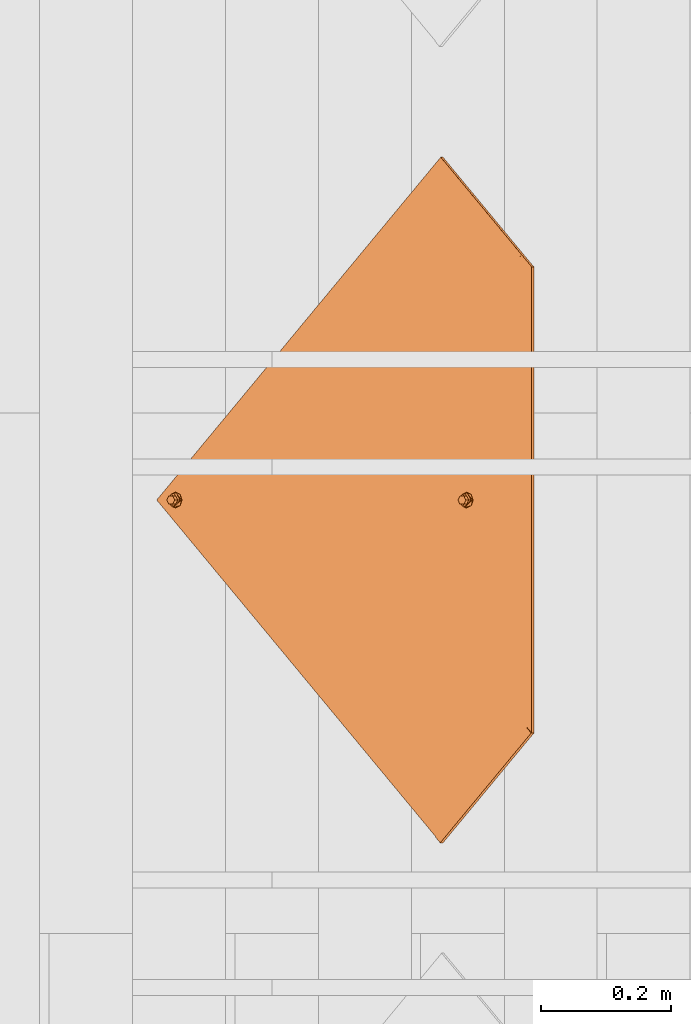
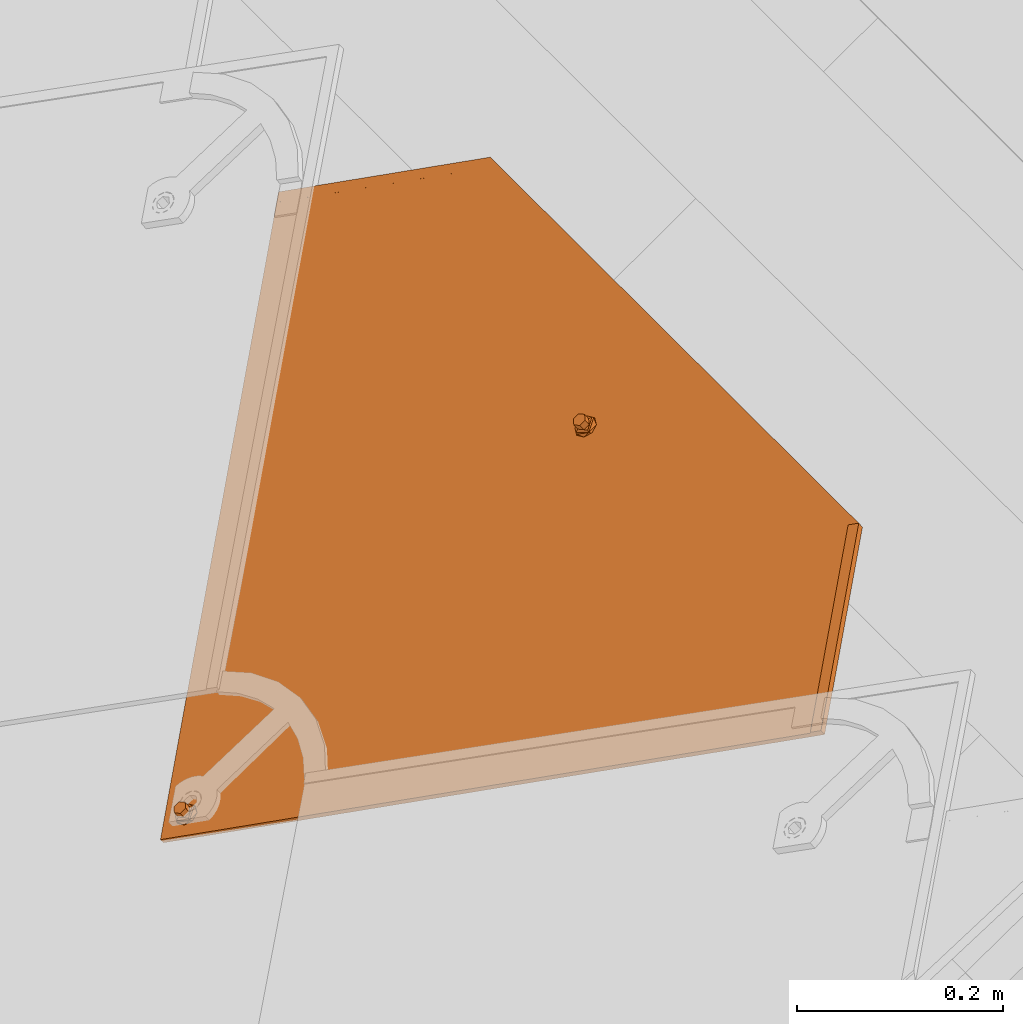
# One storey, part 33 of 151: 1 proxy.
"""IFC2X3 building model written with IfcOpenShell, lengths in millimetres."""

from ifc_helpers import new_model, entity, si_unit, converted_unit, derived_unit, direction, frame, origin, place, context, subcontext, project, spatial, faceted_brep, source, transform, mapped, material, material_list, type_object, type_shapes, element, save


model = new_model("IFC2X3")

# Units and contexts
model_context = context("Model", 3, precision=0.01, world=origin(), true_north=direction((6.12303176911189e-17, 1.0)))
body_context = subcontext(model_context, "Body", "Model", "MODEL_VIEW")
ifc_project = project(units=[si_unit("LENGTHUNIT", "METRE", prefix="MILLI"), si_unit("AREAUNIT", "SQUARE_METRE"), si_unit("VOLUMEUNIT", "CUBIC_METRE"), converted_unit("PLANEANGLEUNIT", "DEGREE", entity("IfcRatioMeasure", 0.0174532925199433), si_unit("PLANEANGLEUNIT", "RADIAN"), dimensions=[0, 0, 0, 0, 0, 0, 0]), si_unit("MASSUNIT", "GRAM", prefix="KILO"), derived_unit("MASSDENSITYUNIT", [(si_unit("MASSUNIT", "GRAM", prefix="KILO"), 1), (si_unit("LENGTHUNIT", "METRE"), -3)]), si_unit("TIMEUNIT", "SECOND"), si_unit("FREQUENCYUNIT", "HERTZ"), si_unit("THERMODYNAMICTEMPERATUREUNIT", "DEGREE_CELSIUS"), derived_unit("THERMALTRANSMITTANCEUNIT", [(si_unit("MASSUNIT", "GRAM", prefix="KILO"), 1), (si_unit("THERMODYNAMICTEMPERATUREUNIT", "KELVIN"), -1), (si_unit("TIMEUNIT", "SECOND"), -3)]), derived_unit("VOLUMETRICFLOWRATEUNIT", [(si_unit("LENGTHUNIT", "METRE"), 3), (si_unit("TIMEUNIT", "SECOND"), -1)]), si_unit("ELECTRICCURRENTUNIT", "AMPERE"), si_unit("ELECTRICVOLTAGEUNIT", "VOLT"), si_unit("POWERUNIT", "WATT"), si_unit("FORCEUNIT", "NEWTON", prefix="KILO"), si_unit("ILLUMINANCEUNIT", "LUX"), si_unit("LUMINOUSFLUXUNIT", "LUMEN"), si_unit("LUMINOUSINTENSITYUNIT", "CANDELA"), derived_unit("USERDEFINED", [(si_unit("MASSUNIT", "GRAM", prefix="KILO"), -1), (si_unit("LENGTHUNIT", "METRE"), -2), (si_unit("TIMEUNIT", "SECOND"), 3), (si_unit("LUMINOUSFLUXUNIT", "LUMEN"), 1)]), derived_unit("LINEARVELOCITYUNIT", [(si_unit("LENGTHUNIT", "METRE"), 1), (si_unit("TIMEUNIT", "SECOND"), -1)]), si_unit("PRESSUREUNIT", "PASCAL"), derived_unit("USERDEFINED", [(si_unit("LENGTHUNIT", "METRE"), -2), (si_unit("MASSUNIT", "GRAM", prefix="KILO"), 1), (si_unit("TIMEUNIT", "SECOND"), -2)])], contexts=[model_context])

# Site, building, storey
site_placement = place(None, origin())
site = spatial("IfcSite", under=ifc_project, at=site_placement, Name="Default", CompositionType="ELEMENT")
building_placement = place(site_placement, origin())
building = spatial("IfcBuilding", under=site, at=building_placement, CompositionType="ELEMENT")
storey_placement = place(building_placement, origin())
storey = spatial("IfcBuildingStorey", under=building, at=storey_placement, Name="Level 1", CompositionType="ELEMENT", Elevation=0.0)

# Proxy
ifc_material_1 = material(Name="Rubber - Sunstyle - Black")
ifc_material_2 = material(Name="Glass - Sunstyle - Tainted Black")
ifc_material_list_1 = material_list([ifc_material_1, ifc_material_2])
ifc_material_list_2 = material_list([ifc_material_1, ifc_material_2])
building_element_proxy_type = type_object("IfcBuildingElementProxyType", Name="Shingle Top - Black", PredefinedType="NOTDEFINED", material=ifc_material_list_2)
shared_shape = source(origin(), body_context, "Body", "Brep", [
    faceted_brep([(-518.396436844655, -96.9865733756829, 16.4476231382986), (-518.396436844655, -96.9614556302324, 17.9474128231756), (-526.881123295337, -88.4767691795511, 17.8053154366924), (-526.881123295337, -88.5018869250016, 16.3055257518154), (-376.996804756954, 61.3404039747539, 13.7960402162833), (-368.512118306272, 52.8557175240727, 13.9381376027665), (-376.996804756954, 61.3655217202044, 15.2958299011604), (-368.512118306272, 52.8808352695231, 15.4379272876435)], [[[0, 1, 2, 3]], [[0, 3, 4, 5]], [[3, 2, 6, 4]], [[2, 1, 7, 6]], [[1, 0, 5, 7]], [[5, 4, 6, 7]]]),
    faceted_brep([(0.166366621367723, -33.6374645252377, -4.47296585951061), (-5.6078362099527, -36.9707346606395, -4.4171418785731), (-5.60783620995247, -36.6024255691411, 17.5747274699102), (0.166366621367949, -33.2691554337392, 17.5189034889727), (-5.60783620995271, -43.6372749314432, -4.30549391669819), (-5.60783620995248, -43.2689658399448, 17.6863754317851), (0.166366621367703, -46.9705450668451, -4.24966993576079), (0.166366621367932, -46.6022359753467, 17.7421994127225), (5.94056945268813, -43.6372749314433, -4.30549391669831), (5.94056945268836, -43.2689658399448, 17.686375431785), (5.94056945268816, -36.9707346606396, -4.41714187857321), (5.94056945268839, -36.6024255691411, 17.5747274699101), (-8.43733754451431, -48.5381935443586, 17.774621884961), (0.16636662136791, -52.1014648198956, 17.8342978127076), (-12.0011084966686, -39.9356957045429, 17.6305514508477), (-8.43733754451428, -31.3331978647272, 17.4864810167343), (0.166366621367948, -27.7699265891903, 17.4268050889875), (8.77007078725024, -31.3331978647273, 17.4864810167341), (12.3338417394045, -39.935695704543, 17.6305514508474), (8.77007078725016, -48.5381935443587, 17.7746218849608), (-11.1578780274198, -37.6406185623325, 19.9433933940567), (-9.59010793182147, -39.8646808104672, 21.8708760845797), (0.166366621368, -32.5516055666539, 22.5035764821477), (0.166366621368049, -31.3111079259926, 21.9232298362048), (0.166366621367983, -29.1535570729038, 20.9138547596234), (0.166366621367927, -51.5454208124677, 19.1093557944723), (0.166366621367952, -50.6018442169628, 21.273060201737), (0.166366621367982, -47.1524685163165, 22.7481046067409), (0.166366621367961, -28.2829626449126, 18.7197675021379), (-6.15687907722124, -43.5022527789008, 22.6869725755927), (-6.15687907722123, -36.2018213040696, 22.5647085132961), (11.4906112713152, -42.1520387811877, 20.0189484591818), (10.0152467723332, -40.9390872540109, 21.7920079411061), (6.48961231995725, -36.2018213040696, 22.564708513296), (6.48961231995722, -43.5022527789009, 22.6869725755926), (-6.15687907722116, -43.3682243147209, 30.68986075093), (0.166366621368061, -47.0184400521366, 30.7509927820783), (0.166366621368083, -39.7180085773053, 30.6287287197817), (-6.15687907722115, -36.0677928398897, 30.5675966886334), (6.48961231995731, -43.368224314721, 30.6898607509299), (6.48961231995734, -36.0677928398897, 30.5675966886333), (0.166366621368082, -32.417577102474, 30.5064646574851), (0.166366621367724, -40.3040047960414, -4.36131789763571)], [[[0, 1, 2, 3]], [[1, 4, 5, 2]], [[4, 6, 7, 5]], [[6, 8, 9, 7]], [[8, 10, 11, 9]], [[10, 0, 3, 11]], [[12, 7, 13]], [[7, 12, 5]], [[14, 5, 12]], [[5, 14, 2]], [[15, 2, 14]], [[3, 2, 15]], [[15, 16, 3]], [[16, 17, 3]], [[11, 3, 17]], [[11, 17, 18]], [[9, 11, 18]], [[18, 19, 9]], [[7, 9, 19]], [[19, 13, 7]], [[20, 14, 12]], [[21, 22, 23, 24]], [[24, 20, 21]], [[25, 20, 12]], [[26, 27, 21]], [[15, 14, 20]], [[12, 13, 25]], [[20, 28, 15]], [[28, 20, 24]], [[21, 27, 29]], [[21, 29, 30]], [[26, 21, 20]], [[20, 25, 26]], [[15, 28, 16]], [[21, 30, 22]], [[31, 18, 17]], [[28, 31, 17]], [[32, 27, 26]], [[26, 31, 32]], [[26, 25, 31]], [[25, 19, 31]], [[17, 16, 28]], [[31, 19, 18]], [[24, 31, 28]], [[33, 34, 32]], [[23, 22, 33]], [[24, 32, 31]], [[27, 32, 34]], [[32, 23, 33]], [[19, 25, 13]], [[32, 24, 23]], [[35, 36, 37]], [[37, 38, 35]], [[36, 39, 37]], [[40, 37, 39]], [[37, 40, 41]], [[37, 41, 38]], [[42, 6, 4]], [[4, 1, 42]], [[1, 0, 42]], [[42, 8, 6]], [[0, 10, 42]], [[8, 42, 10]], [[22, 30, 38, 41]], [[30, 29, 35, 38]], [[29, 27, 36, 35]], [[27, 34, 39, 36]], [[34, 33, 40, 39]], [[33, 22, 41, 40]]]),
    faceted_brep([(0.0, -573.927138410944, 4.00636906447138), (-5.77420283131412, -577.260408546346, 4.0621930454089), (-5.77420283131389, -576.892099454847, 26.0540623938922), (0.0, -573.558829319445, 25.9982384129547), (-5.77420283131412, -583.926948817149, 4.1738410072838), (-5.7742028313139, -583.558639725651, 26.1657103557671), (0.0, -587.260218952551, 4.2296649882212), (0.0, -586.891909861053, 26.2215343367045), (5.77420283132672, -583.926948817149, 4.17384100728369), (5.77420283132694, -583.558639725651, 26.165710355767), (5.77420283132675, -577.260408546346, 4.06219304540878), (5.77420283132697, -576.892099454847, 26.0540623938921), (-8.60370416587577, -588.827867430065, 26.253956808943), (0.0, -592.391138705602, 26.3136327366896), (-12.1674751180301, -580.225369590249, 26.1098863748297), (-8.60370416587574, -571.622871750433, 25.9658159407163), (0.0, -568.059600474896, 25.9061400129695), (8.60370416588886, -571.622871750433, 25.9658159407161), (12.1674751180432, -580.225369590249, 26.1098863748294), (8.60370416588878, -588.827867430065, 26.2539568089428), (-11.3242446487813, -577.930292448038, 28.4227283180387), (-9.75647455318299, -580.154354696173, 30.3502110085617), (0.0, -572.84127945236, 30.9829114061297), (0.0, -571.600781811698, 30.4025647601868), (0.0, -569.44323095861, 29.3931896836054), (0.0, -591.835094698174, 27.5886907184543), (0.0, -590.891518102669, 29.752395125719), (0.0, -587.442142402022, 31.227439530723), (0.0, -568.572636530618, 27.1991024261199), (-6.32324569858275, -583.791926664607, 31.1663074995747), (-6.32324569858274, -576.491495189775, 31.0440434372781), (11.3242446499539, -582.441712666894, 28.4982833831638), (9.84888015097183, -581.228761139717, 30.2713428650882), (6.32324569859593, -576.491495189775, 31.044043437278), (6.32324569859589, -583.791926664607, 31.1663074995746), (-6.32324569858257, -583.657898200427, 39.169195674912), (0.0, -587.308113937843, 39.2303277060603), (0.0, -580.007682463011, 39.1080636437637), (-6.32324569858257, -576.357466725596, 39.0469316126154), (6.32324569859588, -583.657898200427, 39.1691956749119), (6.32324569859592, -576.357466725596, 39.0469316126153), (0.0, -572.70725098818, 38.9857995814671), (0.0, -580.593678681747, 4.11801702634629)], [[[0, 1, 2, 3]], [[1, 4, 5, 2]], [[4, 6, 7, 5]], [[6, 8, 9, 7]], [[8, 10, 11, 9]], [[10, 0, 3, 11]], [[12, 7, 13]], [[7, 12, 5]], [[14, 5, 12]], [[5, 14, 2]], [[15, 2, 14]], [[3, 2, 15]], [[15, 16, 3]], [[16, 17, 3]], [[11, 3, 17]], [[11, 17, 18]], [[9, 11, 18]], [[18, 19, 9]], [[7, 9, 19]], [[19, 13, 7]], [[20, 14, 12]], [[21, 22, 23, 24]], [[24, 20, 21]], [[25, 20, 12]], [[26, 27, 21]], [[15, 14, 20]], [[12, 13, 25]], [[20, 28, 15]], [[28, 20, 24]], [[21, 27, 29]], [[21, 29, 30]], [[26, 21, 20]], [[20, 25, 26]], [[15, 28, 16]], [[21, 30, 22]], [[31, 18, 17]], [[28, 31, 17]], [[32, 27, 26]], [[26, 31, 32]], [[26, 25, 31]], [[25, 19, 31]], [[17, 16, 28]], [[31, 19, 18]], [[24, 31, 28]], [[33, 34, 32]], [[23, 22, 33]], [[24, 32, 31]], [[27, 32, 34]], [[32, 23, 33]], [[19, 25, 13]], [[32, 24, 23]], [[35, 36, 37]], [[37, 38, 35]], [[36, 39, 37]], [[40, 37, 39]], [[37, 40, 41]], [[37, 41, 38]], [[42, 6, 4]], [[4, 1, 42]], [[1, 0, 42]], [[42, 8, 6]], [[0, 10, 42]], [[8, 42, 10]], [[22, 30, 38, 41]], [[30, 29, 35, 38]], [[29, 27, 36, 35]], [[27, 34, 39, 36]], [[34, 33, 40, 39]], [[33, 22, 41, 40]]]),
    faceted_brep([(518.482751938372, -96.8754983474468, 17.9260478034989), (526.967438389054, -88.3908118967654, 17.7839504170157), (526.967438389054, -88.3656941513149, 19.2837401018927), (518.482751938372, -96.8503806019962, 19.4258374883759), (349.749400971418, 71.8105397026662, 15.1009763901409), (358.234087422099, 80.2952261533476, 14.9588790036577), (358.234087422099, 80.3203438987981, 16.4586686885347), (349.749400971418, 71.8356574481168, 16.6007660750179)], [[[0, 1, 2, 3]], [[1, 0, 4, 5]], [[2, 1, 5, 6]], [[3, 2, 6, 7]], [[0, 3, 7, 4]], [[4, 7, 6, 5]]]),
    faceted_brep([(358.234087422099, 80.2952261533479, 14.9588790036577), (6.94661128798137, -35.8890860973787, 16.9046771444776), (7.74581466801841, -37.8182632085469, 16.9369860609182), (5.67526230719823, -34.2324641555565, 16.8769328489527), (8.01840805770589, -39.8885252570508, 16.9716577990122), (7.74581466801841, -41.9587873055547, 17.0063295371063), (6.94661128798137, -43.8879644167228, 17.0386384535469), (526.967438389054, -88.3908118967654, 17.7839504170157), (4.01840805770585, -32.9612934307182, 16.855643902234), (2.08896041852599, -32.1622021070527, 16.8422611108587), (0.0184080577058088, -31.8896469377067, 16.8376964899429), (-358.233442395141, 80.2952261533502, 14.9588790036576), (-2.05214430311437, -32.1622021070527, 16.8422611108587), (-3.98159194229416, -32.9612934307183, 16.855643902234), (-5.63844619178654, -34.2324641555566, 16.8769328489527), (-6.90979517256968, -35.8890860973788, 16.9046771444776), (-7.70899855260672, -37.8182632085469, 16.9369860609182), (-7.98159194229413, -39.8885252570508, 16.9716577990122), (-7.70899855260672, -41.9587873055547, 17.0063295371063), (-6.90979517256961, -43.8879644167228, 17.0386384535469), (-526.966793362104, -88.390811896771, 17.7839504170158), (-5.63844619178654, -45.544586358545, 17.0663827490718), (-5.6568542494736, -574.226981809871, 25.9204974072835), (-6.92820323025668, -575.883603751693, 25.9482417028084), (-7.72740661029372, -577.812780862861, 25.980550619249), (-8.0, -579.883042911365, 26.015222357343), (-7.72740661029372, -581.953304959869, 26.049894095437), (0.000322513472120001, -615.210165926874, 26.6068637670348), (7.72740661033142, -581.953304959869, 26.049894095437), (6.92820323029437, -583.882482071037, 26.0822030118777), (5.65685424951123, -585.53910401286, 26.1099473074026), (4.0, -586.810274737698, 26.1312362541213), (2.070552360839, -587.609366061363, 26.1446190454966), (0.0, -587.881921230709, 26.1491836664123), (-2.0705523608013, -587.609366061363, 26.1446190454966), (-4.0, -586.810274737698, 26.1312362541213), (-5.65685424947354, -585.53910401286, 26.1099473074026), (-6.92820323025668, -583.882482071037, 26.0822030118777), (-4.0, -572.955811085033, 25.8992084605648), (-3.98159194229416, -46.8157570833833, 17.0876716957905), (-2.07055236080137, -572.156719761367, 25.8858256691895), (-2.05214430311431, -47.614848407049, 17.1010544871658), (0.0, -571.884164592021, 25.8812610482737), (0.0184080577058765, -47.8874035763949, 17.1056191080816), (2.07055236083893, -572.156719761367, 25.8858256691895), (2.08896041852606, -47.6148484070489, 17.1010544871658), (4.0, -572.955811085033, 25.8992084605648), (4.01840805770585, -46.8157570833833, 17.0876716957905), (5.65685424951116, -574.226981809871, 25.9204974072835), (5.67526230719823, -45.544586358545, 17.0663827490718), (6.92820323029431, -575.883603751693, 25.9482417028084), (7.72740661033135, -577.812780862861, 25.980550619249), (8.0, -579.883042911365, 26.015222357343), (-358.233442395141, 80.1947551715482, 8.9597202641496), (-6.90979517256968, -35.9895570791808, 10.9055184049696), (-7.70899855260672, -37.9187341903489, 10.9378273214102), (-5.63844619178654, -34.3329351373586, 10.8777741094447), (-7.98159194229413, -39.9889962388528, 10.9724990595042), (-7.70899855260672, -42.0592582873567, 11.0071707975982), (-6.90979517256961, -43.9884353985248, 11.0394797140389), (-526.966793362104, -88.4912828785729, 11.7847916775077), (-3.98159194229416, -33.0617644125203, 10.856485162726), (-2.05214430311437, -32.2626730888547, 10.8431023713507), (0.0184080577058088, -31.9901179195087, 10.8385377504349), (358.234087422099, 80.1947551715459, 8.95972026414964), (2.08896041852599, -32.2626730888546, 10.8431023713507), (4.01840805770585, -33.0617644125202, 10.856485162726), (5.67526230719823, -34.3329351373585, 10.8777741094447), (6.94661128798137, -35.9895570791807, 10.9055184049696), (7.74581466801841, -37.9187341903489, 10.9378273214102), (8.01840805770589, -39.9889962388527, 10.9724990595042), (7.74581466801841, -42.0592582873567, 11.0071707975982), (6.94661128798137, -43.9884353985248, 11.0394797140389), (526.967438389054, -88.4912828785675, 11.7847916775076), (5.67526230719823, -45.645057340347, 11.0672240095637), (5.65685424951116, -574.327452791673, 19.9213386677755), (6.92820323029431, -575.984074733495, 19.9490829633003), (7.72740661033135, -577.913251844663, 19.981391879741), (8.0, -579.983513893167, 20.016063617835), (7.72740661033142, -582.053775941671, 20.050735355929), (0.000322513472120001, -615.310636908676, 20.6077050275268), (-7.72740661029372, -582.053775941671, 20.050735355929), (-6.92820323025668, -583.982953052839, 20.0830442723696), (-5.65685424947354, -585.639574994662, 20.1107885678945), (-4.0, -586.9107457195, 20.1320775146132), (-2.0705523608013, -587.709837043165, 20.1454603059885), (0.0, -587.982392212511, 20.1500249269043), (2.070552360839, -587.709837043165, 20.1454603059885), (4.0, -586.9107457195, 20.1320775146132), (5.65685424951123, -585.639574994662, 20.1107885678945), (6.92820323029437, -583.982953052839, 20.0830442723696), (4.01840805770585, -46.9162280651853, 11.0885129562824), (4.0, -573.056282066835, 19.9000497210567), (2.08896041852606, -47.7153193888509, 11.1018957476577), (2.07055236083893, -572.257190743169, 19.8866669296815), (0.0184080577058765, -47.9878745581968, 11.1064603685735), (0.0, -571.984635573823, 19.8821023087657), (-2.05214430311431, -47.7153193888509, 11.1018957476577), (-2.07055236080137, -572.257190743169, 19.8866669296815), (-3.98159194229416, -46.9162280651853, 11.0885129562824), (-4.0, -573.056282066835, 19.9000497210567), (-5.63844619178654, -45.645057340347, 11.0672240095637), (-5.6568542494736, -574.327452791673, 19.9213386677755), (-6.92820323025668, -575.984074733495, 19.9490829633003), (-7.72740661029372, -577.913251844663, 19.981391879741), (-8.0, -579.983513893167, 20.016063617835)], [[[0, 1, 2]], [[1, 0, 3]], [[0, 2, 4]], [[4, 5, 0]], [[5, 6, 0]], [[7, 0, 6]], [[8, 3, 0]], [[9, 8, 0]], [[10, 9, 0]], [[0, 11, 10]], [[12, 10, 11]], [[13, 12, 11]], [[14, 13, 11]], [[11, 15, 14]], [[15, 11, 16]], [[16, 11, 17]], [[11, 18, 17]], [[18, 11, 19]], [[11, 20, 19]], [[19, 20, 21]], [[20, 22, 21]], [[23, 22, 20]], [[24, 23, 20]], [[24, 20, 25]], [[26, 25, 20]], [[27, 26, 20]], [[7, 28, 27]], [[29, 27, 28]], [[27, 29, 30]], [[30, 31, 27]], [[31, 32, 27]], [[27, 32, 33]], [[27, 33, 34]], [[34, 35, 27]], [[27, 35, 36]], [[36, 37, 27]], [[37, 26, 27]], [[38, 21, 22]], [[38, 39, 21]], [[38, 40, 39]], [[40, 41, 39]], [[40, 42, 41]], [[41, 42, 43]], [[44, 43, 42]], [[44, 45, 43]], [[45, 44, 46]], [[46, 47, 45]], [[46, 48, 47]], [[48, 49, 47]], [[50, 7, 48]], [[48, 7, 49]], [[7, 50, 51]], [[7, 51, 52]], [[52, 28, 7]], [[7, 6, 49]], [[53, 54, 55]], [[54, 53, 56]], [[53, 55, 57]], [[58, 53, 57]], [[59, 53, 58]], [[60, 53, 59]], [[61, 56, 53]], [[62, 61, 53]], [[53, 63, 62]], [[63, 53, 64]], [[65, 63, 64]], [[66, 65, 64]], [[64, 67, 66]], [[67, 64, 68]], [[68, 64, 69]], [[70, 69, 64]], [[71, 70, 64]], [[72, 71, 64]], [[72, 64, 73]], [[72, 73, 74]], [[74, 73, 75]], [[73, 76, 75]], [[76, 73, 77]], [[77, 73, 78]], [[79, 78, 73]], [[79, 73, 80]], [[60, 81, 80]], [[80, 81, 82]], [[80, 82, 83]], [[83, 84, 80]], [[84, 85, 80]], [[85, 86, 80]], [[80, 86, 87]], [[80, 87, 88]], [[80, 88, 89]], [[79, 80, 90]], [[80, 89, 90]], [[75, 91, 74]], [[75, 92, 91]], [[92, 93, 91]], [[93, 92, 94]], [[93, 94, 95]], [[96, 95, 94]], [[97, 95, 96]], [[96, 98, 97]], [[98, 99, 97]], [[98, 100, 99]], [[100, 101, 99]], [[100, 102, 101]], [[60, 101, 102]], [[103, 60, 102]], [[103, 104, 60]], [[104, 105, 60]], [[105, 81, 60]], [[59, 101, 60]], [[27, 20, 60, 80]], [[7, 27, 80, 73]], [[0, 7, 73, 64]], [[25, 105, 104, 24]], [[24, 104, 103, 23]], [[38, 22, 102, 100]], [[102, 22, 23, 103]], [[40, 38, 100, 98]], [[40, 98, 96, 42]], [[42, 96, 94, 44]], [[44, 94, 92, 46]], [[50, 48, 75, 76]], [[75, 48, 46, 92]], [[51, 50, 76, 77]], [[51, 77, 78, 52]], [[52, 78, 79, 28]], [[28, 79, 90, 29]], [[31, 30, 89, 88]], [[29, 90, 89, 30]], [[87, 32, 31, 88]], [[32, 87, 86, 33]], [[34, 33, 86, 85]], [[34, 85, 84, 35]], [[37, 36, 83, 82]], [[35, 84, 83, 36]], [[37, 82, 81, 26]], [[26, 81, 105, 25]], [[17, 57, 55, 16]], [[16, 55, 54, 15]], [[13, 14, 56, 61]], [[56, 14, 15, 54]], [[12, 13, 61, 62]], [[12, 62, 63, 10]], [[10, 63, 65, 9]], [[9, 65, 66, 8]], [[1, 3, 67, 68]], [[67, 3, 8, 66]], [[2, 1, 68, 69]], [[2, 69, 70, 4]], [[4, 70, 71, 5]], [[5, 71, 72, 6]], [[47, 49, 74, 91]], [[74, 49, 6, 72]], [[45, 47, 91, 93]], [[45, 93, 95, 43]], [[43, 95, 97, 41]], [[41, 97, 99, 39]], [[19, 21, 101, 59]], [[101, 21, 39, 99]], [[18, 19, 59, 58]], [[18, 58, 57, 17]], [[11, 0, 64, 53]], [[20, 11, 53, 60]]]),
])
type_shapes(building_element_proxy_type, [shared_shape])
proxy_placement = place(storey_placement, frame((806.508765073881, -3477.83635519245, 2509.99375313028), z_axis=(-0.57357643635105, 0.0, 0.819152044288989), x_axis=(0.0, -1.0, 0.0)))
element("IfcBuildingElementProxy", 1, at=proxy_placement, inside=storey, type_object=building_element_proxy_type, material=ifc_material_list_1, Name="Roofing_Panels_SunStyle_Tile_Shingle-Top:Shingle Top - Black", ObjectType="Roofing_Panels_SunStyle_Tile_Shingle-Top:Shingle Top - Black", context=body_context, shape_type="MappedRepresentation", body=[
    mapped(shared_shape, transform((0.0, 0.0, 0.0), scale=1.0)),
])

save(model, "model.ifc")
